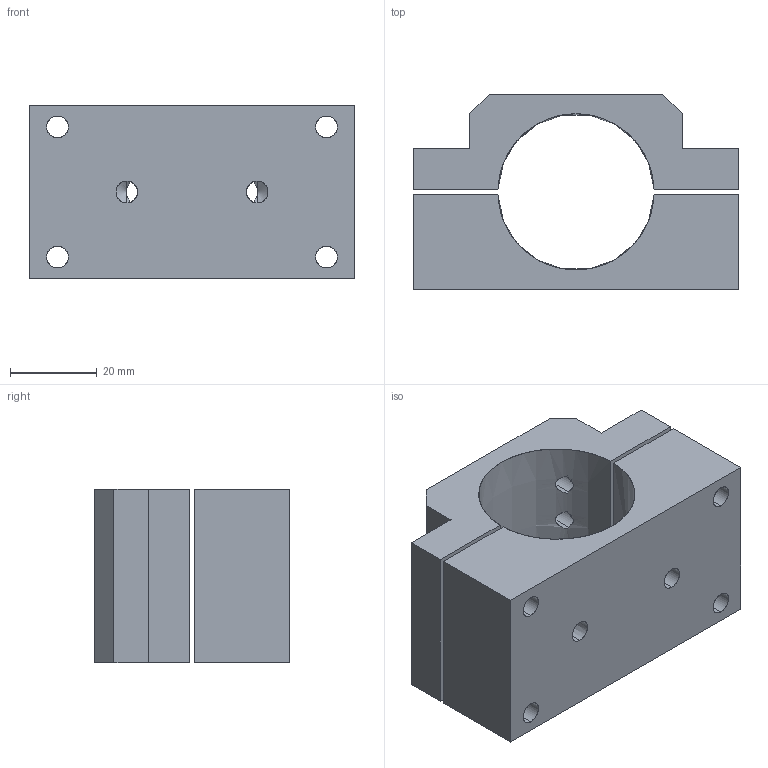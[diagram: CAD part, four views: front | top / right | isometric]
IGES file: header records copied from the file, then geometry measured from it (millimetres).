
Start section: SolidWorks IGES file using analytic representation for surfaces
Global section: file name: C:\Documents and Settings\CAD53\デスクトップ\IGES\N01915-301-1.IGS; native system: SolidWorks 2005 by SolidWorks Corporation; preprocessor: SolidWorks 2005 by SolidWorks Corporation; author: CAD53; date: 070530.095537; units: millimetre
Bounding box: 75 x 45 x 40 mm (x, y, z)
Surface area: 23466.1 mm2 (no closed solid volume)
Topology: 0 solids, 0 shells, 68 faces, 1396 edges, 1396 vertices
Faces by surface type: revolution 48, bspline 20
